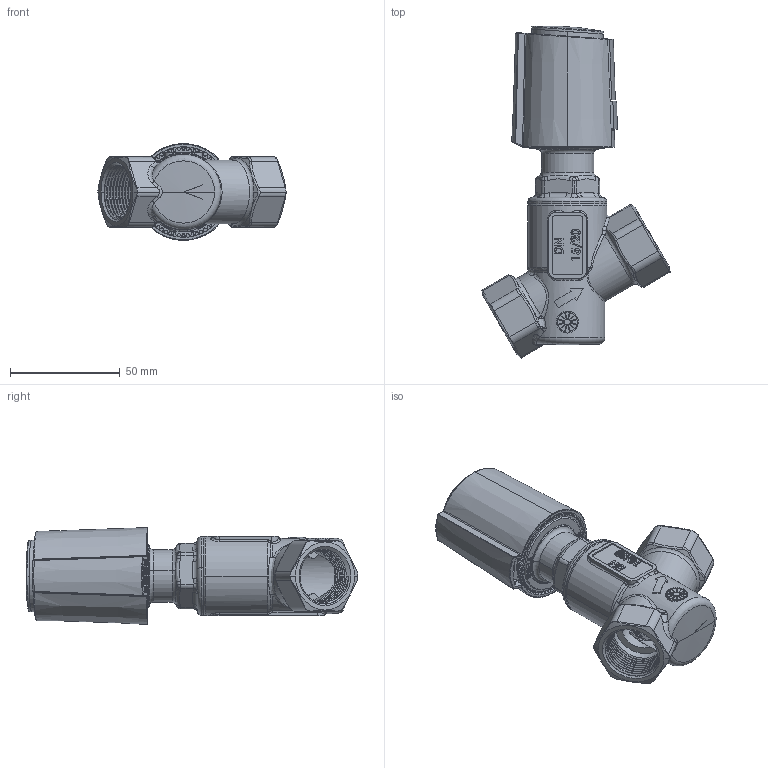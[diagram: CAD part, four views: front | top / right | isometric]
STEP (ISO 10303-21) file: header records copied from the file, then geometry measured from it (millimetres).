
FILE_DESCRIPTION (( 'STEP AP203' ), '1' );
FILE_NAME ('EVS A-House DN20 ISO FF EV.0.3 Act..step', '2024-04-29T08:13:06', ( '' ), ( '' ), 'SwSTEP 2.0', 'SolidWorks 2023', '' );
FILE_SCHEMA (( 'CONFIG_CONTROL_DESIGN' ));
Length unit declared in the file: millimetre
Products named in the file (1): EVS A-House DN20 ISO FF EV.0.3 Act.
Bounding box: 85.65 x 151.2 x 44.07 mm (x, y, z)
Surface area: 41026.4 mm2 (no closed solid volume)
Topology: 0 solids, 10 shells, 1025 faces, 3785 edges, 2682 vertices
Faces by surface type: cylinder 396, plane 314, bspline 209, cone 52, torus 42, sphere 12
Entity records: 60967 total; most frequent: CARTESIAN_POINT 33838, ORIENTED_EDGE 5953, DIRECTION 4183, EDGE_CURVE 3768, VERTEX_POINT 2678, B_SPLINE_CURVE_WITH_KNOTS 1706, AXIS2_PLACEMENT_3D 1436, LINE 1311
